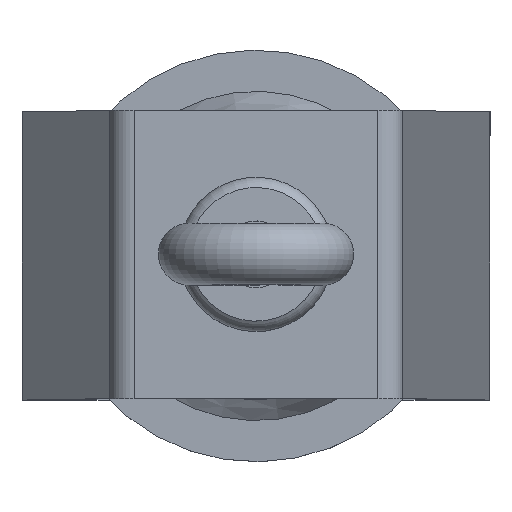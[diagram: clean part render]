
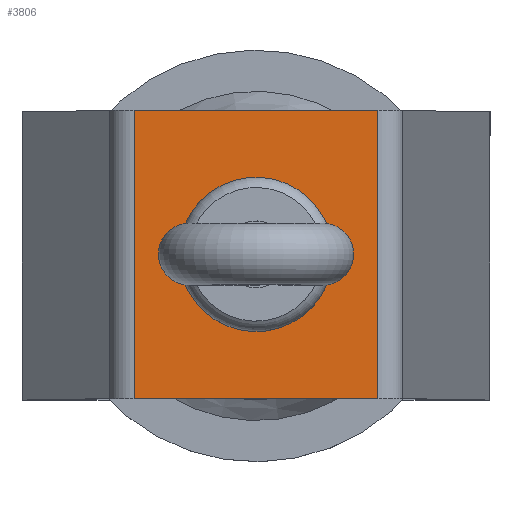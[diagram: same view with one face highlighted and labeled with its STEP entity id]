
A CAD part, top view. The second image highlights one B-rep face of the part: STEP entity #3806.
In plain terms, the highlighted planar face has unit normal (0, 0, 1).
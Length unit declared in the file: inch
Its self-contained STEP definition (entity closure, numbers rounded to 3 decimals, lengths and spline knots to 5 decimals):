
#306=LINE('',#5585,#462);
#307=LINE('',#5587,#463);
#308=LINE('',#5589,#464);
#309=LINE('',#5590,#465);
#462=VECTOR('',#4590,1.75);
#463=VECTOR('',#4591,1.4802);
#464=VECTOR('',#4592,1.75);
#465=VECTOR('',#4593,1.4802);
#624=PLANE('',#4107);
#739=FACE_BOUND('',#1120,.T.);
#845=FACE_OUTER_BOUND('',#1119,.T.);
#1119=EDGE_LOOP('',(#2519,#2520,#2521,#2522));
#1120=EDGE_LOOP('',(#2523));
#1463=CIRCLE('',#4086,0.34375);
#1638=VERTEX_POINT('',#5516);
#1657=VERTEX_POINT('',#5578);
#1658=VERTEX_POINT('',#5584);
#1659=VERTEX_POINT('',#5586);
#1660=VERTEX_POINT('',#5588);
#1963=EDGE_CURVE('',#1638,#1638,#1463,.T.);
#1997=EDGE_CURVE('',#1658,#1657,#306,.T.);
#1998=EDGE_CURVE('',#1659,#1658,#307,.T.);
#1999=EDGE_CURVE('',#1659,#1660,#308,.T.);
#2000=EDGE_CURVE('',#1657,#1660,#309,.T.);
#2519=ORIENTED_EDGE('',*,*,#1997,.F.);
#2520=ORIENTED_EDGE('',*,*,#1998,.F.);
#2521=ORIENTED_EDGE('',*,*,#1999,.T.);
#2522=ORIENTED_EDGE('',*,*,#2000,.F.);
#2523=ORIENTED_EDGE('',*,*,#1963,.T.);
#3806=ADVANCED_FACE('',(#845,#739),#624,.F.);
#4086=AXIS2_PLACEMENT_3D('',#5517,#4520,#4521);
#4107=AXIS2_PLACEMENT_3D('',#5583,#4588,#4589);
#4520=DIRECTION('center_axis',(0.,0.,
-1.));
#4521=DIRECTION('ref_axis',(1.,0.,0.));
#4588=DIRECTION('center_axis',(0.,0.,
-1.));
#4589=DIRECTION('ref_axis',(-1.,0.,0.));
#4590=DIRECTION('',(0.,1.,0.));
#4591=DIRECTION('',(-1.,0.,0.));
#4592=DIRECTION('',(0.,1.,0.));
#4593=DIRECTION('',(1.,0.,0.));
#5516=CARTESIAN_POINT('',(0.34375,0.,0.));
#5517=CARTESIAN_POINT('Origin',(0.,0.,
0.));
#5578=CARTESIAN_POINT('',(-0.7401,0.875,0.));
#5583=CARTESIAN_POINT('Origin',(0.,0.,
0.));
#5584=CARTESIAN_POINT('',(-0.7401,-0.875,0.));
#5585=CARTESIAN_POINT('',(-0.7401,0.,0.));
#5586=CARTESIAN_POINT('',(0.7401,-0.875,0.));
#5587=CARTESIAN_POINT('',(-6.30637,-0.875,0.));
#5588=CARTESIAN_POINT('',(0.7401,0.875,0.));
#5589=CARTESIAN_POINT('',(0.7401,0.,0.));
#5590=CARTESIAN_POINT('',(6.76591,0.875,0.));
